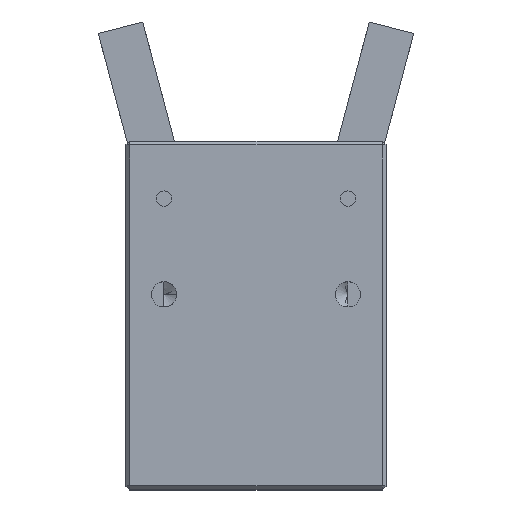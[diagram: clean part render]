
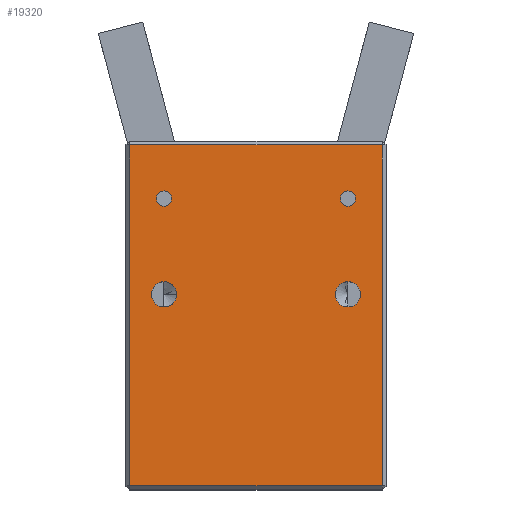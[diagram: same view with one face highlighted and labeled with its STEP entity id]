
A CAD part, top view. The second image highlights one B-rep face of the part: STEP entity #19320.
In plain terms, the highlighted planar face has unit normal (0, 0, 1).
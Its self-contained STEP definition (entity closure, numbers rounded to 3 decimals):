
#171 = VERTEX_POINT ( 'NONE', #5097 ) ;
#174 = VERTEX_POINT ( 'NONE', #5095 ) ;
#182 = EDGE_CURVE ( 'NONE', #171, #174, #5074, .T. ) ;
#1407 = VERTEX_POINT ( 'NONE', #11278 ) ;
#1413 = VERTEX_POINT ( 'NONE', #11238 ) ;
#1470 = EDGE_CURVE ( 'NONE', #1413, #1407, #11542, .T. ) ;
#1495 = VERTEX_POINT ( 'NONE', #11646 ) ;
#1498 = VERTEX_POINT ( 'NONE', #11647 ) ;
#1500 = EDGE_CURVE ( 'NONE', #1495, #1498, #11702, .T. ) ;
#5074 = CIRCLE ( 'NONE', #5101, 1. ) ;
#5095 = CARTESIAN_POINT ( 'NONE',  ( 6., 38., 22. ) ) ;
#5096 = CARTESIAN_POINT ( 'NONE',  ( 5., 38., 22. ) ) ;
#5097 = CARTESIAN_POINT ( 'NONE',  ( 4., 38., 22. ) ) ;
#5101 = AXIS2_PLACEMENT_3D ( 'NONE', #5096, #5134, #5133 ) ;
#5133 = DIRECTION ( 'NONE',  ( 1., 0., 0. ) ) ;
#5134 = DIRECTION ( 'NONE',  ( 0., 0., 1. ) ) ;
#11238 = CARTESIAN_POINT ( 'NONE',  ( 27.35, 25.5, 22. ) ) ;
#11278 = CARTESIAN_POINT ( 'NONE',  ( 30.65, 25.5, 22. ) ) ;
#11517 = AXIS2_PLACEMENT_3D ( 'NONE', #11602, #11601, #11600 ) ;
#11542 = CIRCLE ( 'NONE', #11517, 1.65 ) ;
#11600 = DIRECTION ( 'NONE',  ( 1., 0., 0. ) ) ;
#11601 = DIRECTION ( 'NONE',  ( 0., 0., 1. ) ) ;
#11602 = CARTESIAN_POINT ( 'NONE',  ( 29., 25.5, 22. ) ) ;
#11646 = CARTESIAN_POINT ( 'NONE',  ( 3.35, 25.5, 22. ) ) ;
#11647 = CARTESIAN_POINT ( 'NONE',  ( 6.65, 25.5, 22. ) ) ;
#11686 = DIRECTION ( 'NONE',  ( 1., 0., 0. ) ) ;
#11687 = DIRECTION ( 'NONE',  ( 0., 0., 1. ) ) ;
#11688 = CARTESIAN_POINT ( 'NONE',  ( 5., 25.5, 22. ) ) ;
#11689 = AXIS2_PLACEMENT_3D ( 'NONE', #11688, #11687, #11686 ) ;
#11702 = CIRCLE ( 'NONE', #11689, 1.65 ) ;
#19116 = ORIENTED_EDGE ( 'NONE', *, *, #19330, .F. ) ;
#19299 = ORIENTED_EDGE ( 'NONE', *, *, #1500, .F. ) ;
#19303 = ORIENTED_EDGE ( 'NONE', *, *, #27902, .F. ) ;
#19305 = EDGE_LOOP ( 'NONE', ( #19116, #19303 ) ) ;
#19308 = EDGE_CURVE ( 'NONE', #1407, #1413, #28523, .T. ) ;
#19309 = EDGE_LOOP ( 'NONE', ( #19328, #19312 ) ) ;
#19312 = ORIENTED_EDGE ( 'NONE', *, *, #1470, .F. ) ;
#19315 = EDGE_LOOP ( 'NONE', ( #19321, #19299 ) ) ;
#19316 = ORIENTED_EDGE ( 'NONE', *, *, #182, .F. ) ;
#19320 = ADVANCED_FACE ( 'NONE', ( #28511, #28554, #28545, #28555, #28556 ), #28501, .T. ) ;
#19321 = ORIENTED_EDGE ( 'NONE', *, *, #19337, .F. ) ;
#19322 = ORIENTED_EDGE ( 'NONE', *, *, #19351, .T. ) ;
#19323 = VERTEX_POINT ( 'NONE', #28519 ) ;
#19324 = EDGE_LOOP ( 'NONE', ( #19327, #19316 ) ) ;
#19326 = EDGE_CURVE ( 'NONE', #174, #171, #28541, .T. ) ;
#19327 = ORIENTED_EDGE ( 'NONE', *, *, #19326, .F. ) ;
#19328 = ORIENTED_EDGE ( 'NONE', *, *, #19308, .F. ) ;
#19330 = EDGE_CURVE ( 'NONE', #27967, #27786, #28543, .T. ) ;
#19332 = ORIENTED_EDGE ( 'NONE', *, *, #19340, .T. ) ;
#19333 = EDGE_CURVE ( 'NONE', #19341, #19342, #28593, .T. ) ;
#19334 = ORIENTED_EDGE ( 'NONE', *, *, #19333, .T. ) ;
#19335 = ORIENTED_EDGE ( 'NONE', *, *, #19339, .T. ) ;
#19336 = EDGE_LOOP ( 'NONE', ( #19334, #19332, #19322, #19335 ) ) ;
#19337 = EDGE_CURVE ( 'NONE', #1498, #1495, #28587, .T. ) ;
#19338 = VERTEX_POINT ( 'NONE', #28597 ) ;
#19339 = EDGE_CURVE ( 'NONE', #19338, #19341, #28579, .T. ) ;
#19340 = EDGE_CURVE ( 'NONE', #19342, #19323, #28575, .T. ) ;
#19341 = VERTEX_POINT ( 'NONE', #28574 ) ;
#19342 = VERTEX_POINT ( 'NONE', #28573 ) ;
#19351 = EDGE_CURVE ( 'NONE', #19323, #19338, #26819, .T. ) ;
#26818 = CARTESIAN_POINT ( 'NONE',  ( 33.5, 45.5, 22. ) ) ;
#26819 = LINE ( 'NONE', #26818, #27368 ) ;
#27368 = VECTOR ( 'NONE', #28582, 1000. ) ;
#27786 = VERTEX_POINT ( 'NONE', #30191 ) ;
#27902 = EDGE_CURVE ( 'NONE', #27786, #27967, #30615, .T. ) ;
#27967 = VERTEX_POINT ( 'NONE', #30748 ) ;
#28501 = PLANE ( 'NONE',  #28550 ) ;
#28502 = DIRECTION ( 'NONE',  ( 1., 0., 0. ) ) ;
#28503 = DIRECTION ( 'NONE',  ( 0., 0., 1. ) ) ;
#28504 = DIRECTION ( 'NONE',  ( 1., 0., 0. ) ) ;
#28505 = DIRECTION ( 'NONE',  ( 0., 0., 1. ) ) ;
#28511 = FACE_BOUND ( 'NONE', #19305, .T. ) ;
#28518 = CARTESIAN_POINT ( 'NONE',  ( 29., 25.5, 22. ) ) ;
#28519 = CARTESIAN_POINT ( 'NONE',  ( 33.5, 0.5, 22. ) ) ;
#28523 = CIRCLE ( 'NONE', #28533, 1.65 ) ;
#28533 = AXIS2_PLACEMENT_3D ( 'NONE', #28518, #28503, #28502 ) ;
#28534 = DIRECTION ( 'NONE',  ( 1., 0., 0. ) ) ;
#28535 = DIRECTION ( 'NONE',  ( 0., 0., 1. ) ) ;
#28537 = DIRECTION ( 'NONE',  ( 1., 0., 0. ) ) ;
#28538 = DIRECTION ( 'NONE',  ( 0., 0., 1. ) ) ;
#28539 = CARTESIAN_POINT ( 'NONE',  ( 5., 38., 22. ) ) ;
#28540 = AXIS2_PLACEMENT_3D ( 'NONE', #28539, #28538, #28537 ) ;
#28541 = CIRCLE ( 'NONE', #28540, 1. ) ;
#28542 = CARTESIAN_POINT ( 'NONE',  ( 29., 38., 22. ) ) ;
#28543 = CIRCLE ( 'NONE', #28544, 1. ) ;
#28544 = AXIS2_PLACEMENT_3D ( 'NONE', #28542, #28535, #28534 ) ;
#28545 = FACE_BOUND ( 'NONE', #19309, .T. ) ;
#28550 = AXIS2_PLACEMENT_3D ( 'NONE', #28553, #28505, #28504 ) ;
#28553 = CARTESIAN_POINT ( 'NONE',  ( 0., 0., 22. ) ) ;
#28554 = FACE_BOUND ( 'NONE', #19324, .T. ) ;
#28555 = FACE_BOUND ( 'NONE', #19315, .T. ) ;
#28556 = FACE_OUTER_BOUND ( 'NONE', #19336, .T. ) ;
#28570 = DIRECTION ( 'NONE',  ( 1., 0., 0. ) ) ;
#28571 = VECTOR ( 'NONE', #28570, 1000. ) ;
#28572 = CARTESIAN_POINT ( 'NONE',  ( 34., 0.5, 22. ) ) ;
#28573 = CARTESIAN_POINT ( 'NONE',  ( 0.5, 0.5, 22. ) ) ;
#28574 = CARTESIAN_POINT ( 'NONE',  ( 0.5, 45., 22. ) ) ;
#28575 = LINE ( 'NONE', #28572, #28571 ) ;
#28576 = DIRECTION ( 'NONE',  ( -1., 0., 0. ) ) ;
#28577 = VECTOR ( 'NONE', #28576, 1000. ) ;
#28578 = CARTESIAN_POINT ( 'NONE',  ( 0., 45., 22. ) ) ;
#28579 = LINE ( 'NONE', #28578, #28577 ) ;
#28582 = DIRECTION ( 'NONE',  ( 0., 1., 0. ) ) ;
#28583 = DIRECTION ( 'NONE',  ( 1., 0., 0. ) ) ;
#28584 = DIRECTION ( 'NONE',  ( 0., 0., 1. ) ) ;
#28585 = CARTESIAN_POINT ( 'NONE',  ( 5., 25.5, 22. ) ) ;
#28586 = AXIS2_PLACEMENT_3D ( 'NONE', #28585, #28584, #28583 ) ;
#28587 = CIRCLE ( 'NONE', #28586, 1.65 ) ;
#28588 = DIRECTION ( 'NONE',  ( 0., -1., 0. ) ) ;
#28589 = VECTOR ( 'NONE', #28588, 1000. ) ;
#28592 = CARTESIAN_POINT ( 'NONE',  ( 0.5, 0., 22. ) ) ;
#28593 = LINE ( 'NONE', #28592, #28589 ) ;
#28597 = CARTESIAN_POINT ( 'NONE',  ( 33.5, 45., 22. ) ) ;
#30191 = CARTESIAN_POINT ( 'NONE',  ( 28., 38., 22. ) ) ;
#30547 = AXIS2_PLACEMENT_3D ( 'NONE', #30620, #30551, #30583 ) ;
#30551 = DIRECTION ( 'NONE',  ( 0., 0., 1. ) ) ;
#30583 = DIRECTION ( 'NONE',  ( 1., 0., 0. ) ) ;
#30615 = CIRCLE ( 'NONE', #30547, 1. ) ;
#30620 = CARTESIAN_POINT ( 'NONE',  ( 29., 38., 22. ) ) ;
#30748 = CARTESIAN_POINT ( 'NONE',  ( 30., 38., 22. ) ) ;
